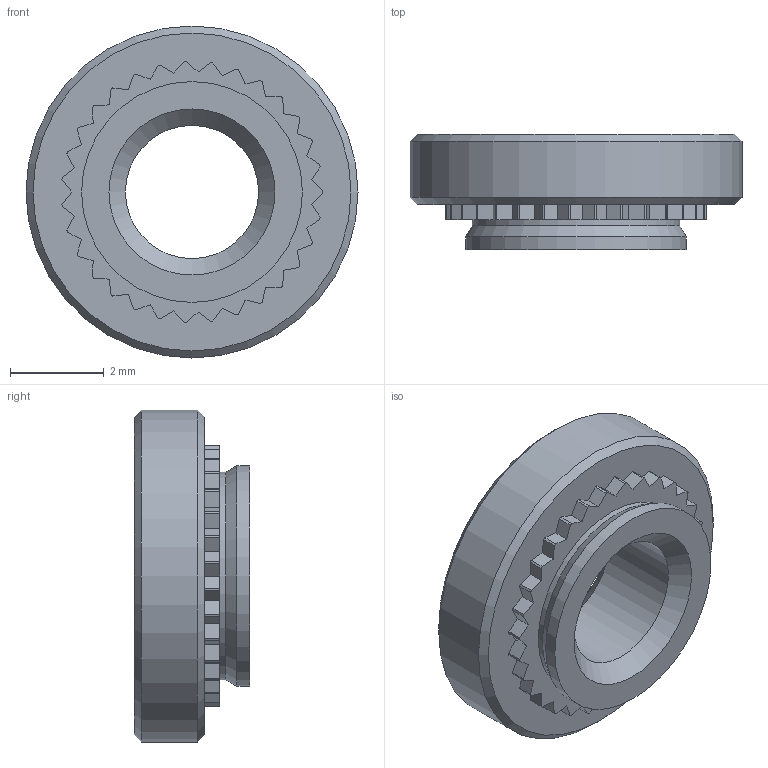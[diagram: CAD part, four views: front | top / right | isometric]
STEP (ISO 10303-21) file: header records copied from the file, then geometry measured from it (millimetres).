
FILE_DESCRIPTION(/* description */ (''),/* implementation_level */ '2;1');
FILE_NAME(/* name */ 'C:\Users\keval.kumar\Desktop\Fastit\Clinch nut\M3.5\Clinch Nut_M3.5_1.stp',/* time_stamp */ '2024-03-14T09:34:35+05:00',/* author */ ('keval.kumar'),/* organization */ (''),/* preprocessor_version */ 'ST-DEVELOPER v18.1',/* originating_system */ 'Autodesk Inventor 2022',/* authorisation */ '');
FILE_SCHEMA (('AUTOMOTIVE_DESIGN { 1 0 10303 214 3 1 1 }'));
Length unit declared in the file: millimetre
Products named in the file (1): Clinch Nut_M3.5_1
Bounding box: 7.1 x 2.47 x 7.1 mm (x, y, z)
Volume: 60.1 mm3; surface area: 133.8 mm2
Topology: 1 solids, 1 shells, 106 faces, 303 edges, 201 vertices
Faces by surface type: plane 66, cylinder 35, cone 5
Full cylindrical faces by diameter (mm): 2.85 x1, 4.44 x1, 4.72 x1, 7.1 x1
Entity records: 3507 total; most frequent: CARTESIAN_POINT 611, ORIENTED_EDGE 606, DIRECTION 594, EDGE_CURVE 303, LINE 226, VECTOR 226, VERTEX_POINT 201, AXIS2_PLACEMENT_3D 184
